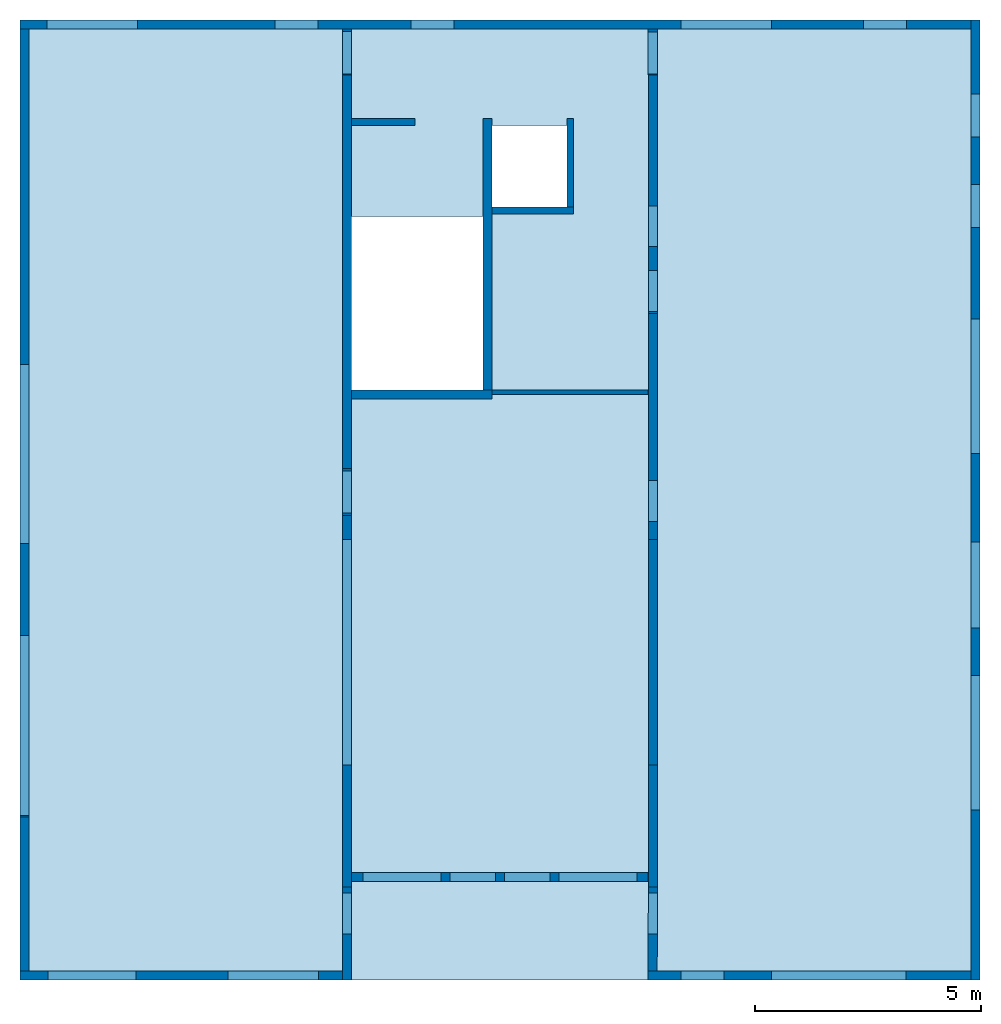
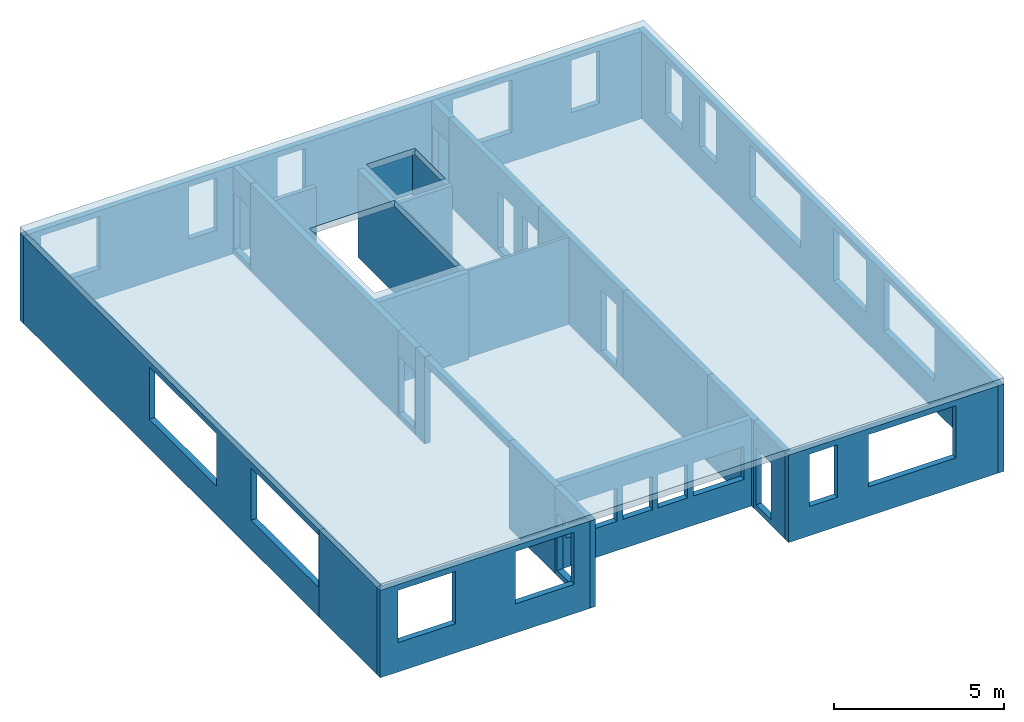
# One storey: 25 walls, 1 beam, 1 slab, 31 openings.
"""IFC2X3 building model written with IfcOpenShell, lengths in millimetres."""

from ifc_helpers import new_model, entity, si_unit, converted_unit, frame, frame_2d, origin, origin_with_axes, place, context, subcontext, project, spatial, polyline, rectangle, outline, extrude, material, layer, layer_set, layer_usage, element, save


model = new_model("IFC2X3")

# Units and contexts
model_context = context("Model", 3, precision=1e-05, world=origin())
body_context = subcontext(model_context, "Body", "Model", "MODEL_VIEW")
ifc_project = project(units=[si_unit("LENGTHUNIT", "METRE", prefix="MILLI"), converted_unit("PLANEANGLEUNIT", "DEGREE", entity("IfcPlaneAngleMeasure", 0.0174532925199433), si_unit("PLANEANGLEUNIT", "RADIAN"), dimensions=[0, 0, 0, 0, 0, 0, 0]), si_unit("AREAUNIT", "SQUARE_METRE"), si_unit("VOLUMEUNIT", "CUBIC_METRE")], contexts=[model_context])

# Building, storey
building_placement = place(None, origin())
building = spatial("IfcBuilding", under=ifc_project, at=building_placement, Name="Bâtiment", CompositionType="ELEMENT")
storey_placement = place(building_placement, frame((0.0, 0.0, 17930.0), z_axis=(0.0, 0.0, 1.0), x_axis=(1.0, 0.0, 0.0)))
storey = spatial("IfcBuildingStorey", under=building, at=storey_placement, Name="5. Etage supérieur", CompositionType="ELEMENT", Elevation=17930.0)

# Beam
ifc_material_1 = material(Name="<Unnamed Material>")
beam_placement = place(storey_placement, frame((5083.145608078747, -27162.93546621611, 2660.0), z_axis=(0.0, 0.0, 1.0), x_axis=(-0.0001049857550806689, 0.9999999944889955, 0.0)))
element("IfcBeam", 1, at=beam_placement, inside=storey, material=ifc_material_1, Name="<Unnamed Element>", context=body_context, shape_type="SweptSolid", body=[
    extrude(rectangle(XDim=270.0, YDim=200.0000000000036, at=frame_2d((135.0, -100.0000000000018), x_axis=(1.0, 0.0))), frame((0.0, 0.0, 0.0), z_axis=(1.0, 0.0, 0.0), x_axis=(0.0, 0.0, 1.0)), (0.0, 0.0, 1.0), 4978.489400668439),
])

# Slab, openings
ifc_material_2 = material(Name="<Unnamed Material>")
ifc_layer_1 = layer(ifc_material_2, 230.0)
ifc_layer_set_1 = layer_set([ifc_layer_1])
ifc_layer_usage_1 = layer_usage(ifc_layer_set_1, "AXIS3", "POSITIVE", 0.0)
slab_placement = place(storey_placement, frame((-2242.186712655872, -10713.57313399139, 2930.0), z_axis=(0.0, 0.0, 1.0), x_axis=(1.0, 0.0, 0.0)))
slab = element("IfcSlab", 2, at=slab_placement, inside=storey, material=ifc_layer_usage_1, Name="<Unnamed Element>", PredefinedType="FLOOR", context=body_context, shape_type="SweptSolid", body=[
    extrude(rectangle(XDim=21199.7794596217, YDim=21199.78053621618, at=frame_2d((10599.89026810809, -10599.88972981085), x_axis=(0.0, -0.9999999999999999))), origin_with_axes(), (0.0, 0.0, 1.0), 230.0),
])
opening_1_placement = place(slab_placement, frame((7324.37095526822, -4339.723391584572, 0.0), z_axis=(0.0, 0.0, 1.0), x_axis=(1.0, 0.0, 0.0)))
element("IfcOpeningElement", 3, at=opening_1_placement, cuts=slab, Name="Trémie dans dalle", ObjectType="Opening", context=body_context, shape_type="SweptSolid", body=[
    extrude(rectangle(XDim=3832.337630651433, YDim=2900.897842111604, at=frame_2d((1450.448921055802, -1916.168815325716), x_axis=(0.0, -1.0))), origin_with_axes(), (0.0, 0.0, 1.0), 230.0),
])
opening_2_placement = place(slab_placement, frame((10425.26879737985, -2328.570187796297, 0.0), z_axis=(0.0, 0.0, 1.0), x_axis=(1.0, 0.0, 0.0)))
element("IfcOpeningElement", 4, at=opening_2_placement, cuts=slab, Name="Trémie dans dalle", ObjectType="Opening", context=body_context, shape_type="SweptSolid", body=[
    extrude(rectangle(XDim=1801.910756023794, YDim=1649.183155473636, at=frame_2d((824.5915777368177, -900.9553780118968), x_axis=(0.0, -1.0))), origin_with_axes(), (0.0, 0.0, 1.0), 230.0),
])

# Walls
ifc_material_3 = material(Name="<Unnamed Material>")
ifc_layer_2 = layer(ifc_material_3, 200.0)
ifc_layer_set_2 = layer_set([ifc_layer_2])
ifc_layer_usage_2 = layer_usage(ifc_layer_set_2, "AXIS2", "POSITIVE", -100.0)
wall_1_placement = place(storey_placement, frame((4882.622938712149, -11933.31105644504, -200.0), z_axis=(0.0, 0.0, 1.0), x_axis=(8.375772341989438e-16, -1.0, 0.0)))
element("IfcWallStandardCase", 5, at=wall_1_placement, inside=storey, material=ifc_layer_usage_2, Name="<Unnamed Element>", context=body_context, shape_type="SweptSolid", body=[
    extrude(outline(polyline([(0.0, 0.0), (8686.909477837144, 0.0), (8686.909477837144, 200.0), (7152.32309978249, 200.0000000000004), (7152.32309978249, 199.5182401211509), (6952.32309978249, 199.5182401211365), (6952.32309978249, 200.0000000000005), (1.675154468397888e-13, 200.0), (0.0, 0.0)])), origin_with_axes(), (0.0, 0.0, 1.0), 3140.0),
])
ifc_material_4 = material(Name="<Unnamed Material>")
ifc_layer_3 = layer(ifc_material_4, 200.0)
ifc_layer_set_3 = layer_set([ifc_layer_3])
ifc_layer_usage_3 = layer_usage(ifc_layer_set_3, "AXIS2", "POSITIVE", -100.0)
wall_2_placement = place(storey_placement, frame((4882.622938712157, -21651.10432616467, -200.0), z_axis=(0.0, 0.0, 1.0), x_axis=(-1.909833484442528e-13, -1.0, 0.0)))
element("IfcWallStandardCase", 6, at=wall_2_placement, inside=storey, material=ifc_layer_usage_3, Name="<Unnamed Element>", context=body_context, shape_type="SweptSolid", body=[
    extrude(outline(polyline([(0.0, 0.0), (533.362763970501, 0.0), (533.3627639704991, 200.0), (-0.04673483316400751, 200.0), (0.04673480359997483, 2.184142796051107e-05), (0.0, 0.0)])), origin_with_axes(), (0.0, 0.0, 1.0), 3140.0),
])

# Wall, opening
ifc_material_5 = material(Name="<Unnamed Material>")
ifc_layer_4 = layer(ifc_material_5, 200.0000000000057)
ifc_layer_set_4 = layer_set([ifc_layer_4])
ifc_layer_usage_4 = layer_usage(ifc_layer_set_4, "AXIS2", "POSITIVE", -200.0)
wall_3_placement = place(storey_placement, frame((4882.141200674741, -20620.31400391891, -200.0), z_axis=(0.0, 0.0, 1.0), x_axis=(0.0004673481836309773, -0.9999998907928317, 0.0)))
wall_3 = element("IfcWallStandardCase", 7, at=wall_3_placement, inside=storey, material=ifc_layer_usage_4, Name="<Unnamed Element>", context=body_context, shape_type="SweptSolid", body=[
    extrude(rectangle(XDim=1030.837169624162, YDim=200.0000000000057, at=frame_2d((515.4185848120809, 100.0000000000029), x_axis=(1.0, 0.0))), origin_with_axes(), (0.0, 0.0, 1.0), 3140.0),
])
opening_3_placement = place(wall_3_placement, frame((50.06475455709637, 3.337087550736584e-13, 200.0), z_axis=(0.0, 1.0, 0.0), x_axis=(0.0, 0.0, 1.0)))
element("IfcOpeningElement", 8, at=opening_3_placement, cuts=wall_3, Name="Porte-fenêtre", ObjectType="Opening", context=body_context, shape_type="SweptSolid", body=[
    extrude(rectangle(XDim=2040.0, YDim=930.0, at=frame_2d((1020.0, 465.0), x_axis=(1.0, 0.0))), origin_with_axes(), (0.0, 0.0, 1.0), 200.0000000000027),
])

ifc_material_6 = material(Name="<Unnamed Material>")
ifc_layer_5 = layer(ifc_material_6, 200.0)
ifc_layer_set_5 = layer_set([ifc_layer_5])
ifc_layer_usage_5 = layer_usage(ifc_layer_set_5, "AXIS2", "POSITIVE", -200.0)
wall_4_placement = place(storey_placement, frame((5083.145609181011, -11933.31105644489, -200.0), z_axis=(0.0, 0.0, 1.0), x_axis=(4.992028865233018e-14, 1.0, 0.0)))
wall_4 = element("IfcWallStandardCase", 9, at=wall_4_placement, inside=storey, material=ifc_layer_usage_5, Name="<Unnamed Element>", context=body_context, shape_type="SweptSolid", body=[
    extrude(rectangle(XDim=1020.260592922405, YDim=200.0, at=frame_2d((510.1302964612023, 100.0), x_axis=(1.0, 0.0))), origin_with_axes(), (0.0, 0.0, 1.0), 3140.0),
])
opening_4_placement = place(wall_4_placement, frame((31.31246848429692, -2.526705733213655e-13, 200.0), z_axis=(0.0, 1.0, 0.0), x_axis=(0.0, 0.0, 1.0)))
element("IfcOpeningElement", 10, at=opening_4_placement, cuts=wall_4, Name="Porte-fenêtre", ObjectType="Opening", context=body_context, shape_type="SweptSolid", body=[
    extrude(rectangle(XDim=2040.0, YDim=930.0, at=frame_2d((1020.0, 465.0), x_axis=(1.0, 0.0))), origin_with_axes(), (0.0, 0.0, 1.0), 200.0),
])

# Walls
ifc_material_7 = material(Name="<Unnamed Material>")
ifc_layer_6 = layer(ifc_material_7, 200.0)
ifc_layer_set_6 = layer_set([ifc_layer_6])
ifc_layer_usage_6 = layer_usage(ifc_layer_set_6, "AXIS2", "POSITIVE", 0.0)
wall_5_placement = place(storey_placement, frame((8183.082084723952, -18885.63415622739, -200.0), z_axis=(0.0, 0.0, 1.0), x_axis=(4.855906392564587e-15, 1.0, 0.0)))
element("IfcWallStandardCase", 11, at=wall_5_placement, inside=storey, material=ifc_layer_usage_6, Name="<Unnamed Element>", context=body_context, shape_type="SweptSolid", body=[
    extrude(rectangle(XDim=5993.490834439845, YDim=200.0, at=frame_2d((2996.745417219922, 100.0), x_axis=(1.0, 0.0))), origin_with_axes(), (0.0, 0.0, 1.0), 3140.0),
])
ifc_material_8 = material(Name="<Unnamed Material>")
ifc_layer_7 = layer(ifc_material_8, 150.0)
ifc_layer_set_7 = layer_set([ifc_layer_7])
ifc_layer_usage_7 = layer_usage(ifc_layer_set_7, "AXIS2", "POSITIVE", 0.0)
wall_6_placement = place(storey_placement, frame((8183.082084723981, -14994.05407781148, -200.0), z_axis=(0.0, 0.0, 1.0), x_axis=(1.0, -3.033025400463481e-15, 0.0)))
element("IfcWallStandardCase", 12, at=wall_6_placement, inside=storey, material=ifc_layer_usage_7, Name="<Unnamed Element>", context=body_context, shape_type="SweptSolid", body=[
    extrude(rectangle(XDim=1799.183155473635, YDim=150.0, at=frame_2d((899.5915777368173, 75.0), x_axis=(1.0, 0.0))), origin_with_axes(), (0.0, 0.0, 1.0), 3140.0),
])
ifc_material_9 = material(Name="<Unnamed Material>")
ifc_layer_8 = layer(ifc_material_9, 150.0)
ifc_layer_set_8 = layer_set([ifc_layer_8])
ifc_layer_usage_8 = layer_usage(ifc_layer_set_8, "AXIS2", "POSITIVE", 0.0)
wall_7_placement = place(storey_placement, frame((9982.265240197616, -14844.05407781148, -200.0), z_axis=(0.0, 0.0, 1.0), x_axis=(7.455215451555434e-15, 1.0, 0.0)))
element("IfcWallStandardCase", 13, at=wall_7_placement, inside=storey, material=ifc_layer_usage_8, Name="<Unnamed Element>", context=body_context, shape_type="SweptSolid", body=[
    extrude(rectangle(XDim=1951.91075602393, YDim=150.0, at=frame_2d((975.955378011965, 75.0), x_axis=(1.0, 0.0))), origin_with_axes(), (0.0, 0.0, 1.0), 3140.0),
])
ifc_material_10 = material(Name="<Unnamed Material>")
ifc_layer_9 = layer(ifc_material_10, 200.0)
ifc_layer_set_9 = layer_set([ifc_layer_9])
ifc_layer_usage_9 = layer_usage(ifc_layer_set_9, "AXIS2", "POSITIVE", -100.0)
wall_8_placement = place(storey_placement, frame((-2042.186712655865, -31713.35259361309, -200.0), z_axis=(0.0, 0.0, 1.0), x_axis=(0.0, 1.0, 0.0)))
element("IfcWallStandardCase", 14, at=wall_8_placement, inside=storey, material=ifc_layer_usage_9, Name="<Unnamed Element>", context=body_context, shape_type="SweptSolid", body=[
    extrude(rectangle(XDim=3401.036787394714, YDim=200.0, at=frame_2d((1700.518393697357, 100.0), x_axis=(1.0, 0.0))), origin_with_axes(), (0.0, 0.0, 1.0), 3140.0),
])

# Wall, openings
ifc_material_11 = material(Name="<Unnamed Material>")
ifc_layer_10 = layer(ifc_material_11, 200.0)
ifc_layer_set_10 = layer_set([ifc_layer_10])
ifc_layer_usage_10 = layer_usage(ifc_layer_set_10, "AXIS2", "POSITIVE", -100.0)
wall_9_placement = place(storey_placement, frame((-2042.186712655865, -28312.31580621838, -200.0), z_axis=(0.0, 0.0, 1.0), x_axis=(-4.181887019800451e-16, 0.9999999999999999, 0.0)))
wall_9 = element("IfcWallStandardCase", 15, at=wall_9_placement, inside=storey, material=ifc_layer_usage_10, Name="<Unnamed Element>", context=body_context, shape_type="SweptSolid", body=[
    extrude(rectangle(XDim=17398.74267222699, YDim=200.0, at=frame_2d((8699.371336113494, 99.99999999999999), x_axis=(1.0, 0.0))), origin_with_axes(), (0.0, 0.0, 1.0), 3140.0),
])
opening_5_placement = place(wall_9_placement, frame((28.64891545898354, -1.302801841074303e-14, 1050.0), z_axis=(0.0, 1.0, 0.0), x_axis=(0.0, 0.0, 1.0)))
element("IfcOpeningElement", 16, at=opening_5_placement, cuts=wall_9, Name="Baie de fenêtre", ObjectType="Opening", context=body_context, shape_type="SweptSolid", body=[
    extrude(rectangle(XDim=1880.0, YDim=3980.0, at=frame_2d((940.0, 1990.0), x_axis=(1.0, 0.0))), origin_with_axes(), (0.0, 0.0, 1.0), 200.0),
])
opening_6_placement = place(wall_9_placement, frame((6038.648915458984, 8.919192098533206e-13, 1050.0), z_axis=(0.0, 1.0, 0.0), x_axis=(0.0, 0.0, 1.0)))
element("IfcOpeningElement", 17, at=opening_6_placement, cuts=wall_9, Name="Baie de fenêtre", ObjectType="Opening", context=body_context, shape_type="SweptSolid", body=[
    extrude(rectangle(XDim=1880.0, YDim=3950.0, at=frame_2d((940.0, 1975.0), x_axis=(1.0, 0.0))), origin_with_axes(), (0.0, 0.0, 1.0), 200.0),
])

ifc_material_12 = material(Name="<Unnamed Material>")
ifc_layer_11 = layer(ifc_material_12, 200.0)
ifc_layer_set_11 = layer_set([ifc_layer_11])
ifc_layer_usage_11 = layer_usage(ifc_layer_set_11, "AXIS2", "POSITIVE", -100.0)
wall_10_placement = place(storey_placement, frame((4882.1411788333, -31713.35259361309, -200.0), z_axis=(0.0, 0.0, 1.0), x_axis=(-1.0, 0.0, 0.0)))
wall_10 = element("IfcWallStandardCase", 18, at=wall_10_placement, inside=storey, material=ifc_layer_usage_11, Name="<Unnamed Element>", context=body_context, shape_type="SweptSolid", body=[
    extrude(rectangle(XDim=7124.327891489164, YDim=200.0, at=frame_2d((3562.163945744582, 100.0), x_axis=(1.0, 0.0))), origin_with_axes(), (0.0, 0.0, 1.0), 3140.0),
])
opening_7_placement = place(wall_10_placement, frame((4560.000000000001, 0.0, 1050.0), z_axis=(0.0, 1.0, 0.0), x_axis=(0.0, 0.0, 1.0)))
element("IfcOpeningElement", 19, at=opening_7_placement, cuts=wall_10, Name="Baie de fenêtre", ObjectType="Opening", context=body_context, shape_type="SweptSolid", body=[
    extrude(rectangle(XDim=1880.0, YDim=1950.0, at=frame_2d((940.0, 975.0), x_axis=(1.0, 0.0))), origin_with_axes(), (0.0, 0.0, 1.0), 200.0),
])
opening_8_placement = place(wall_10_placement, frame((530.0000000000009, 0.0, 1050.0), z_axis=(0.0, 1.0, 0.0), x_axis=(0.0, 0.0, 1.0)))
element("IfcOpeningElement", 20, at=opening_8_placement, cuts=wall_10, Name="Baie de fenêtre", ObjectType="Opening", context=body_context, shape_type="SweptSolid", body=[
    extrude(rectangle(XDim=1880.0, YDim=2000.0, at=frame_2d((940.0, 1000.0), x_axis=(1.0, 0.0))), origin_with_axes(), (0.0, 0.0, 1.0), 200.0),
])

# Wall, opening
ifc_material_13 = material(Name="<Unnamed Material>")
ifc_layer_12 = layer(ifc_material_13, 200.0)
ifc_layer_set_12 = layer_set([ifc_layer_12])
ifc_layer_usage_12 = layer_usage(ifc_layer_set_12, "AXIS2", "POSITIVE", -200.0)
wall_11_placement = place(storey_placement, frame((4882.141178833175, -29863.87900255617, -200.0), z_axis=(0.0, 0.0, 1.0), x_axis=(6.745302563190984e-14, -1.0, 0.0)))
wall_11 = element("IfcWallStandardCase", 21, at=wall_11_placement, inside=storey, material=ifc_layer_usage_12, Name="<Unnamed Element>", context=body_context, shape_type="SweptSolid", body=[
    extrude(rectangle(XDim=2049.473591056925, YDim=200.0, at=frame_2d((1024.736795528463, 100.0), x_axis=(1.0, 0.0))), origin_with_axes(), (0.0, 0.0, 1.0), 3140.0),
])
opening_9_placement = place(wall_11_placement, frame((128.6892510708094, 4.338248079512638e-13, 200.0), z_axis=(0.0, 1.0, 0.0), x_axis=(0.0, 0.0, 1.0)))
element("IfcOpeningElement", 22, at=opening_9_placement, cuts=wall_11, Name="Porte-fenêtre", ObjectType="Opening", context=body_context, shape_type="SweptSolid", body=[
    extrude(rectangle(XDim=2040.0, YDim=900.0, at=frame_2d((1020.0, 450.0), x_axis=(1.0, 0.0))), origin_with_axes(), (0.0, 0.0, 1.0), 200.0),
])

# Wall, openings
ifc_material_14 = material(Name="<Unnamed Material>")
ifc_layer_13 = layer(ifc_material_14, 200.0)
ifc_layer_set_13 = layer_set([ifc_layer_13])
ifc_layer_usage_13 = layer_usage(ifc_layer_set_13, "AXIS2", "POSITIVE", 0.0)
wall_12_placement = place(storey_placement, frame((5083.145609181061, -29743.20998737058, -200.0), z_axis=(0.0, 0.0, 1.0), x_axis=(1.0, 5.555817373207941e-16, 0.0)))
wall_12 = element("IfcWallStandardCase", 23, at=wall_12_placement, inside=storey, material=ifc_layer_usage_13, Name="<Unnamed Element>", context=body_context, shape_type="SweptSolid", body=[
    extrude(rectangle(XDim=6548.053261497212, YDim=200.0, at=frame_2d((3274.026630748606, 100.0), x_axis=(1.0, 0.0))), origin_with_axes(), (0.0, 0.0, 1.0), 3140.0),
])
opening_10_placement = place(wall_12_placement, frame((4573.26477193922, 3.637978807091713e-12, 1050.0), z_axis=(0.0, 1.0, 0.0), x_axis=(0.0, 0.0, 1.0)))
element("IfcOpeningElement", 24, at=opening_10_placement, cuts=wall_12, Name="Baie de fenêtre", ObjectType="Opening", context=body_context, shape_type="SweptSolid", body=[
    extrude(rectangle(XDim=1190.0, YDim=1725.0, at=frame_2d((595.0, 862.5), x_axis=(1.0, 0.0))), origin_with_axes(), (0.0, 0.0, 1.0), 200.0),
])
opening_11_placement = place(wall_12_placement, frame((3375.109717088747, 3.637978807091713e-12, 1050.0), z_axis=(0.0, 1.0, 0.0), x_axis=(0.0, 0.0, 1.0)))
element("IfcOpeningElement", 25, at=opening_11_placement, cuts=wall_12, Name="Baie de fenêtre", ObjectType="Opening", context=body_context, shape_type="SweptSolid", body=[
    extrude(rectangle(XDim=1190.0, YDim=1000.0, at=frame_2d((595.0, 500.0), x_axis=(1.0, 0.0))), origin_with_axes(), (0.0, 0.0, 1.0), 200.0),
])
opening_12_placement = place(wall_12_placement, frame((2174.93726818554, 0.0, 1050.0), z_axis=(0.0, 1.0, 0.0), x_axis=(0.0, 0.0, 1.0)))
element("IfcOpeningElement", 26, at=opening_12_placement, cuts=wall_12, Name="Baie de fenêtre", ObjectType="Opening", context=body_context, shape_type="SweptSolid", body=[
    extrude(rectangle(XDim=1190.0, YDim=1000.000000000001, at=frame_2d((595.0, 500.0000000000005), x_axis=(1.0, 0.0))), origin_with_axes(), (0.0, 0.0, 1.0), 200.0),
])
opening_13_placement = place(wall_12_placement, frame((248.8380329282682, 0.0, 1050.0), z_axis=(0.0, 1.0, 0.0), x_axis=(0.0, 0.0, 1.0)))
element("IfcOpeningElement", 27, at=opening_13_placement, cuts=wall_12, Name="Baie de fenêtre", ObjectType="Opening", context=body_context, shape_type="SweptSolid", body=[
    extrude(rectangle(XDim=1190.0, YDim=1725.0, at=frame_2d((595.0, 862.5), x_axis=(1.0, 0.0))), origin_with_axes(), (0.0, 0.0, 1.0), 200.0),
])

# Wall
ifc_material_15 = material(Name="<Unnamed Material>")
ifc_layer_14 = layer(ifc_material_15, 200.0)
ifc_layer_set_14 = layer_set([ifc_layer_14])
ifc_layer_usage_14 = layer_usage(ifc_layer_set_14, "AXIS2", "POSITIVE", 0.0)
wall_13_placement = place(storey_placement, frame((4883.145609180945, -27162.95646336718, -200.0), z_axis=(0.0, 0.0, 1.0), x_axis=(4.579593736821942e-14, -0.9999999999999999, 0.0)))
element("IfcWallStandardCase", 28, at=wall_13_placement, inside=storey, material=ifc_layer_usage_14, Name="<Unnamed Element>", context=body_context, shape_type="SweptSolid", body=[
    extrude(rectangle(XDim=2700.922539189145, YDim=200.0, at=frame_2d((1350.461269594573, 99.99999999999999), x_axis=(1.0, 0.0))), origin_with_axes(), (0.0, 0.0, 1.0), 3140.0),
])

# Wall, opening
ifc_material_16 = material(Name="<Unnamed Material>")
ifc_layer_15 = layer(ifc_material_16, 200.0000000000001)
ifc_layer_set_15 = layer_set([ifc_layer_15])
ifc_layer_usage_15 = layer_usage(ifc_layer_set_15, "AXIS2", "POSITIVE", -200.0)
wall_14_placement = place(storey_placement, frame((11632.25951429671, -29863.62150510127, -200.0), z_axis=(0.0, 0.0, 1.0), x_axis=(-0.001287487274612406, -0.9999991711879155, 0.0)))
wall_14 = element("IfcWallStandardCase", 29, at=wall_14_placement, inside=storey, material=ifc_layer_usage_15, Name="<Unnamed Element>", context=body_context, shape_type="SweptSolid", body=[
    extrude(outline(polyline([(0.0, 0.0), (1849.732621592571, 0.0), (1849.475123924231, 200.0000000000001), (-1.814937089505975e-12, 200.0000000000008), (0.0, 0.0)])), origin_with_axes(), (0.0, 0.0, 1.0), 3140.0),
])
opening_14_placement = place(wall_14_placement, frame((128.6901036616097, 5.17058618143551e-13, 200.0), z_axis=(0.0, 1.0, 0.0), x_axis=(0.0, 0.0, 1.0)))
element("IfcOpeningElement", 30, at=opening_14_placement, cuts=wall_14, Name="Porte-fenêtre", ObjectType="Opening", context=body_context, shape_type="SweptSolid", body=[
    extrude(rectangle(XDim=2040.0, YDim=900.0, at=frame_2d((1020.0, 450.0), x_axis=(1.0, 0.0))), origin_with_axes(), (0.0, 0.0, 1.0), 200.0000000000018),
])

# Wall, openings
ifc_material_17 = material(Name="<Unnamed Material>")
ifc_layer_16 = layer(ifc_material_17, 200.0)
ifc_layer_set_16 = layer_set([ifc_layer_16])
ifc_layer_usage_16 = layer_usage(ifc_layer_set_16, "AXIS2", "POSITIVE", -100.0)
wall_15_placement = place(storey_placement, frame((18757.59382356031, -31713.35259361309, -200.0), z_axis=(0.0, 0.0, 1.0), x_axis=(-0.9999999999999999, 0.0, 0.0)))
wall_15 = element("IfcWallStandardCase", 31, at=wall_15_placement, inside=storey, material=ifc_layer_usage_16, Name="<Unnamed Element>", context=body_context, shape_type="SweptSolid", body=[
    extrude(outline(polyline([(0.0, 0.0), (7127.715816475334, 0.0), (7127.973314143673, 200.0), (0.0, 200.0), (0.0, 0.0)])), origin_with_axes(), (0.0, 0.0, 1.0), 3140.0),
])
opening_15_placement = place(wall_15_placement, frame((5457.756787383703, 0.0, 1050.0), z_axis=(0.0, 1.0, 0.0), x_axis=(0.0, 0.0, 1.0)))
element("IfcOpeningElement", 32, at=opening_15_placement, cuts=wall_15, Name="Baie de fenêtre", ObjectType="Opening", context=body_context, shape_type="SweptSolid", body=[
    extrude(rectangle(XDim=1880.0, YDim=950.0, at=frame_2d((940.0, 475.0), x_axis=(1.0, 0.0))), origin_with_axes(), (0.0, 0.0, 1.0), 200.0),
])
opening_16_placement = place(wall_15_placement, frame((1432.756787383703, 0.0, 1050.0), z_axis=(0.0, 1.0, 0.0), x_axis=(0.0, 0.0, 1.0)))
element("IfcOpeningElement", 33, at=opening_16_placement, cuts=wall_15, Name="Baie de fenêtre", ObjectType="Opening", context=body_context, shape_type="SweptSolid", body=[
    extrude(rectangle(XDim=1880.0, YDim=2975.0, at=frame_2d((940.0, 1487.5), x_axis=(1.0, 0.0))), origin_with_axes(), (0.0, 0.0, 1.0), 200.0),
])

# Walls
ifc_material_18 = material(Name="<Unnamed Material>")
ifc_layer_17 = layer(ifc_material_18, 200.0)
ifc_layer_set_17 = layer_set([ifc_layer_17])
ifc_layer_usage_17 = layer_usage(ifc_layer_set_17, "AXIS2", "POSITIVE", 0.0)
wall_16_placement = place(storey_placement, frame((11832.2593485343, -29863.87900255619, -200.0), z_axis=(0.0, 0.0, 1.0), x_axis=(4.848981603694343e-14, 0.9999999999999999, 0.0)))
element("IfcWallStandardCase", 34, at=wall_16_placement, inside=storey, material=ifc_layer_usage_17, Name="<Unnamed Element>", context=body_context, shape_type="SweptSolid", body=[
    extrude(outline(polyline([(0.0, 0.0), (2700.922539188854, 2.584939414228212e-26), (2700.922539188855, 200.0), (0.1287487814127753, 200.0), (0.2574974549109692, 199.9998342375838), (0.0, 0.0)])), origin_with_axes(), (0.0, 0.0, 1.0), 3140.0),
])
ifc_material_19 = material(Name="<Unnamed Material>")
ifc_layer_18 = layer(ifc_material_19, 200.0000000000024)
ifc_layer_set_18 = layer_set([ifc_layer_18])
ifc_layer_usage_18 = layer_usage(ifc_layer_set_18, "AXIS2", "POSITIVE", -200.0)
wall_17_placement = place(storey_placement, frame((11632.78202010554, -22184.44609298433, -200.0), z_axis=(0.0, 0.0, 1.0), x_axis=(-0.0001049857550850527, -0.9999999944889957, 0.0)))
element("IfcWallStandardCase", 35, at=wall_17_placement, inside=storey, material=ifc_layer_usage_18, Name="<Unnamed Element>", context=body_context, shape_type="SweptSolid", body=[
    extrude(rectangle(XDim=4978.489400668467, YDim=200.0000000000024, at=frame_2d((2489.244700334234, 100.0000000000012), x_axis=(1.0, 0.0))), origin_with_axes(), (0.0, 0.0, 1.0), 3140.0),
])

# Wall, openings
ifc_material_20 = material(Name="<Unnamed Material>")
ifc_layer_19 = layer(ifc_material_20, 200.0)
ifc_layer_set_19 = layer_set([ifc_layer_19])
ifc_layer_usage_19 = layer_usage(ifc_layer_set_19, "AXIS2", "POSITIVE", -100.0)
wall_18_placement = place(storey_placement, frame((18757.59382356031, -10713.57313399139, -200.0), z_axis=(0.0, 0.0, 1.0), x_axis=(0.0, -1.0, 0.0)))
wall_18 = element("IfcWallStandardCase", 36, at=wall_18_placement, inside=storey, material=ifc_layer_usage_19, Name="<Unnamed Element>", context=body_context, shape_type="SweptSolid", body=[
    extrude(rectangle(XDim=21199.7794596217, YDim=200.0, at=frame_2d((10599.88972981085, 100.0), x_axis=(1.0, 0.0))), origin_with_axes(), (0.0, 0.0, 1.0), 3140.0),
])
opening_17_placement = place(wall_18_placement, frame((11524.48749585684, 0.0, 1050.0), z_axis=(0.0, 1.0, 0.0), x_axis=(0.0, 0.0, 1.0)))
element("IfcOpeningElement", 37, at=opening_17_placement, cuts=wall_18, Name="Baie de fenêtre", ObjectType="Opening", context=body_context, shape_type="SweptSolid", body=[
    extrude(rectangle(XDim=1880.0, YDim=950.0, at=frame_2d((940.0, 475.0), x_axis=(1.0, 0.0))), origin_with_axes(), (0.0, 0.0, 1.0), 200.0),
])
opening_18_placement = place(wall_18_placement, frame((1630.0, 0.0, 1050.0), z_axis=(0.0, 1.0, 0.0), x_axis=(0.0, 0.0, 1.0)))
element("IfcOpeningElement", 38, at=opening_18_placement, cuts=wall_18, Name="Baie de fenêtre", ObjectType="Opening", context=body_context, shape_type="SweptSolid", body=[
    extrude(rectangle(XDim=1880.0, YDim=950.0, at=frame_2d((940.0, 475.0), x_axis=(1.0, 0.0))), origin_with_axes(), (0.0, 0.0, 1.0), 200.0),
])
opening_19_placement = place(wall_18_placement, frame((3630.0, 0.0, 1050.0), z_axis=(0.0, 1.0, 0.0), x_axis=(0.0, 0.0, 1.0)))
element("IfcOpeningElement", 39, at=opening_19_placement, cuts=wall_18, Name="Baie de fenêtre", ObjectType="Opening", context=body_context, shape_type="SweptSolid", body=[
    extrude(rectangle(XDim=1880.0, YDim=950.0, at=frame_2d((940.0, 475.0), x_axis=(1.0, 0.0))), origin_with_axes(), (0.0, 0.0, 1.0), 200.0),
])
opening_20_placement = place(wall_18_placement, frame((6600.0, 0.0, 1050.0), z_axis=(0.0, 1.0, 0.0), x_axis=(0.0, 0.0, 1.0)))
element("IfcOpeningElement", 40, at=opening_20_placement, cuts=wall_18, Name="Baie de fenêtre", ObjectType="Opening", context=body_context, shape_type="SweptSolid", body=[
    extrude(rectangle(XDim=1880.0, YDim=2975.0, at=frame_2d((940.0, 1487.5), x_axis=(1.0, 0.0))), origin_with_axes(), (0.0, 0.0, 1.0), 200.0),
])
opening_21_placement = place(wall_18_placement, frame((12474.48749585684, 0.0, 1050.0), z_axis=(0.0, 1.0, 0.0), x_axis=(0.0, 0.0, 1.0)))
element("IfcOpeningElement", 41, at=opening_21_placement, cuts=wall_18, Name="Baie de fenêtre", ObjectType="Opening", context=body_context, shape_type="SweptSolid", body=[
    extrude(rectangle(XDim=1880.0, YDim=950.0, at=frame_2d((940.0, 475.0), x_axis=(1.0, 0.0))), origin_with_axes(), (0.0, 0.0, 1.0), 200.0),
])
opening_22_placement = place(wall_18_placement, frame((14474.48749585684, 0.0, 1050.0), z_axis=(0.0, 1.0, 0.0), x_axis=(0.0, 0.0, 1.0)))
element("IfcOpeningElement", 42, at=opening_22_placement, cuts=wall_18, Name="Baie de fenêtre", ObjectType="Opening", context=body_context, shape_type="SweptSolid", body=[
    extrude(rectangle(XDim=1880.0, YDim=2975.0, at=frame_2d((940.0, 1487.5), x_axis=(1.0, 0.0))), origin_with_axes(), (0.0, 0.0, 1.0), 200.0),
])

# Wall, opening
ifc_material_21 = material(Name="<Unnamed Material>")
ifc_layer_20 = layer(ifc_material_21, 200.0)
ifc_layer_set_20 = layer_set([ifc_layer_20])
ifc_layer_usage_20 = layer_usage(ifc_layer_set_20, "AXIS2", "POSITIVE", -100.0)
wall_19_placement = place(storey_placement, frame((11632.78201900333, -17195.40125277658, -200.0), z_axis=(0.0, 0.0, 1.0), x_axis=(1.458386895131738e-15, -1.0, 0.0)))
wall_19 = element("IfcWallStandardCase", 43, at=wall_19_placement, inside=storey, material=ifc_layer_usage_20, Name="<Unnamed Element>", context=body_context, shape_type="SweptSolid", body=[
    extrude(outline(polyline([(0.0, 0.0), (4989.044840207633, 0.0), (4989.065837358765, 200.0), (2.916773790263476e-13, 200.0), (0.0, 0.0)])), origin_with_axes(), (0.0, 0.0, 1.0), 3140.0),
])
opening_23_placement = place(wall_19_placement, frame((3689.065837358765, -1.253403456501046e-12, 200.0), z_axis=(0.0, 1.0, 0.0), x_axis=(0.0, 0.0, 1.0)))
element("IfcOpeningElement", 44, at=opening_23_placement, cuts=wall_19, Name="Porte-fenêtre", ObjectType="Opening", context=body_context, shape_type="SweptSolid", body=[
    extrude(rectangle(XDim=2200.0, YDim=900.0, at=frame_2d((1100.0, 450.0), x_axis=(1.0, 0.0))), origin_with_axes(), (0.0, 0.0, 1.0), 200.0),
])

# Wall, openings
ifc_material_22 = material(Name="<Unnamed Material>")
ifc_layer_21 = layer(ifc_material_22, 200.0)
ifc_layer_set_21 = layer_set([ifc_layer_21])
ifc_layer_usage_21 = layer_usage(ifc_layer_set_21, "AXIS2", "POSITIVE", -100.0)
wall_20_placement = place(storey_placement, frame((11832.78201900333, -17195.40125277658, -200.0), z_axis=(0.0, 0.0, 1.0), x_axis=(0.0, 1.0, 0.0)))
wall_20 = element("IfcWallStandardCase", 45, at=wall_20_placement, inside=storey, material=ifc_layer_usage_21, Name="<Unnamed Element>", context=body_context, shape_type="SweptSolid", body=[
    extrude(rectangle(XDim=5262.090196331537, YDim=200.0, at=frame_2d((2631.045098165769, 100.0), x_axis=(1.0, 0.0))), origin_with_axes(), (0.0, 0.0, 1.0), 3140.0),
])
opening_24_placement = place(wall_20_placement, frame((48.35450415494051, 0.0, 200.0), z_axis=(0.0, 1.0, 0.0), x_axis=(0.0, 0.0, 1.0)))
element("IfcOpeningElement", 46, at=opening_24_placement, cuts=wall_20, Name="Porte-fenêtre", ObjectType="Opening", context=body_context, shape_type="SweptSolid", body=[
    extrude(rectangle(XDim=2040.0, YDim=900.0, at=frame_2d((1020.0, 450.0), x_axis=(1.0, 0.0))), origin_with_axes(), (0.0, 0.0, 1.0), 200.0),
])
opening_25_placement = place(wall_20_placement, frame((1479.148905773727, 0.0, 200.0), z_axis=(0.0, 1.0, 0.0), x_axis=(0.0, 0.0, 1.0)))
element("IfcOpeningElement", 47, at=opening_25_placement, cuts=wall_20, Name="Porte-fenêtre", ObjectType="Opening", context=body_context, shape_type="SweptSolid", body=[
    extrude(rectangle(XDim=2040.0, YDim=900.0, at=frame_2d((1020.0, 450.0), x_axis=(1.0, 0.0))), origin_with_axes(), (0.0, 0.0, 1.0), 200.0),
])

# Wall, opening
ifc_material_23 = material(Name="<Unnamed Material>")
ifc_layer_22 = layer(ifc_material_23, 200.0)
ifc_layer_set_22 = layer_set([ifc_layer_22])
ifc_layer_usage_22 = layer_usage(ifc_layer_set_22, "AXIS2", "POSITIVE", -200.0)
wall_21_placement = place(storey_placement, frame((11831.19887067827, -11933.31105644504, -200.0), z_axis=(0.0, 0.0, 1.0), x_axis=(0.0, 1.0, 0.0)))
wall_21 = element("IfcWallStandardCase", 48, at=wall_21_placement, inside=storey, material=ifc_layer_usage_22, Name="<Unnamed Element>", context=body_context, shape_type="SweptSolid", body=[
    extrude(rectangle(XDim=1019.737922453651, YDim=200.0, at=frame_2d((509.8689612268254, 100.0), x_axis=(1.0, 0.0))), origin_with_axes(), (0.0, 0.0, 1.0), 3140.0),
])
opening_26_placement = place(wall_21_placement, frame((30.10082773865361, 0.0, 200.0), z_axis=(0.0, 1.0, 0.0), x_axis=(0.0, 0.0, 1.0)))
element("IfcOpeningElement", 49, at=opening_26_placement, cuts=wall_21, Name="Porte-fenêtre", ObjectType="Opening", context=body_context, shape_type="SweptSolid", body=[
    extrude(rectangle(XDim=2040.0, YDim=930.0, at=frame_2d((1020.0, 465.0), x_axis=(1.0, 0.0))), origin_with_axes(), (0.0, 0.0, 1.0), 200.0),
])

# Wall
ifc_material_24 = material(Name="<Unnamed Material>")
ifc_layer_23 = layer(ifc_material_24, 200.0)
ifc_layer_set_23 = layer_set([ifc_layer_23])
ifc_layer_usage_23 = layer_usage(ifc_layer_set_23, "AXIS2", "POSITIVE", 0.0)
wall_22_placement = place(storey_placement, frame((5082.141178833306, -19085.63415622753, -200.0), z_axis=(0.0, 0.0, 1.0), x_axis=(1.0, 4.810060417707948e-14, 0.0)))
element("IfcWallStandardCase", 50, at=wall_22_placement, inside=storey, material=ifc_layer_usage_23, Name="<Unnamed Element>", context=body_context, shape_type="SweptSolid", body=[
    extrude(rectangle(XDim=3100.940905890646, YDim=200.0, at=frame_2d((1550.470452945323, 100.0), x_axis=(1.0, 0.0))), origin_with_axes(), (0.0, 0.0, 1.0), 3140.0),
])

# Wall, openings
ifc_material_25 = material(Name="<Unnamed Material>")
ifc_layer_24 = layer(ifc_material_25, 200.0)
ifc_layer_set_24 = layer_set([ifc_layer_24])
ifc_layer_usage_24 = layer_usage(ifc_layer_set_24, "AXIS2", "POSITIVE", -100.0)
wall_23_placement = place(storey_placement, frame((-2242.186712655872, -10913.57313399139, -200.0), z_axis=(0.0, 0.0, 1.0), x_axis=(1.0, 1.732388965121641e-16, 0.0)))
wall_23 = element("IfcWallStandardCase", 51, at=wall_23_placement, inside=storey, material=ifc_layer_usage_24, Name="<Unnamed Element>", context=body_context, shape_type="SweptSolid", body=[
    extrude(outline(polyline([(7325.332321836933, 5.499569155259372e-13), (20999.78053621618, 0.0), (20999.78053621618, 200.0), (3.464777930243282e-14, 200.0), (0.0, 0.0), (7125.332321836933, 5.846046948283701e-13), (7125.332321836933, 0.5226704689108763), (7325.332321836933, 0.5226704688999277), (7325.332321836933, 5.499569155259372e-13)])), origin_with_axes(), (0.0, 0.0, 1.0), 3140.0),
])
opening_27_placement = place(wall_23_placement, frame((18630.21634026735, 3.637978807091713e-12, 1050.0), z_axis=(0.0, 1.0, 0.0), x_axis=(0.0, 0.0, 1.0)))
element("IfcOpeningElement", 52, at=opening_27_placement, cuts=wall_23, Name="Baie de fenêtre", ObjectType="Opening", context=body_context, shape_type="SweptSolid", body=[
    extrude(rectangle(XDim=1880.0, YDim=950.0, at=frame_2d((940.0, 475.0), x_axis=(1.0, 0.0))), origin_with_axes(), (0.0, 0.0, 1.0), 200.0),
])
opening_28_placement = place(wall_23_placement, frame((14600.21634026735, 3.637978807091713e-12, 1050.0), z_axis=(0.0, 1.0, 0.0), x_axis=(0.0, 0.0, 1.0)))
element("IfcOpeningElement", 53, at=opening_28_placement, cuts=wall_23, Name="Baie de fenêtre", ObjectType="Opening", context=body_context, shape_type="SweptSolid", body=[
    extrude(rectangle(XDim=1880.0, YDim=2000.0, at=frame_2d((940.0, 1000.0), x_axis=(1.0, 0.0))), origin_with_axes(), (0.0, 0.0, 1.0), 200.0),
])
opening_29_placement = place(wall_23_placement, frame((8630.27108989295, 1.818989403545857e-12, 1050.0), z_axis=(0.0, 1.0, 0.0), x_axis=(0.0, 0.0, 1.0)))
element("IfcOpeningElement", 54, at=opening_29_placement, cuts=wall_23, Name="Baie de fenêtre", ObjectType="Opening", context=body_context, shape_type="SweptSolid", body=[
    extrude(rectangle(XDim=1880.0, YDim=950.0, at=frame_2d((940.0, 475.0), x_axis=(1.0, 0.0))), origin_with_axes(), (0.0, 0.0, 1.0), 200.0),
])
opening_30_placement = place(wall_23_placement, frame((5630.271089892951, 1.818989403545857e-12, 1050.0), z_axis=(0.0, 1.0, 0.0), x_axis=(0.0, 0.0, 1.0)))
element("IfcOpeningElement", 55, at=opening_30_placement, cuts=wall_23, Name="Baie de fenêtre", ObjectType="Opening", context=body_context, shape_type="SweptSolid", body=[
    extrude(rectangle(XDim=1880.0, YDim=950.0, at=frame_2d((940.0, 475.0), x_axis=(1.0, 0.0))), origin_with_axes(), (0.0, 0.0, 1.0), 199.9999999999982),
])
opening_31_placement = place(wall_23_placement, frame((600.0, 0.0, 1050.0), z_axis=(0.0, 1.0, 0.0), x_axis=(0.0, 0.0, 1.0)))
element("IfcOpeningElement", 56, at=opening_31_placement, cuts=wall_23, Name="Baie de fenêtre", ObjectType="Opening", context=body_context, shape_type="SweptSolid", body=[
    extrude(rectangle(XDim=1880.0, YDim=2000.0, at=frame_2d((940.0, 1000.0), x_axis=(1.0, 0.0))), origin_with_axes(), (0.0, 0.0, 1.0), 200.0),
])

# Walls
ifc_material_26 = material(Name="<Unnamed Material>")
ifc_layer_25 = layer(ifc_material_26, 101.0)
ifc_layer_set_25 = layer_set([ifc_layer_25])
ifc_layer_usage_25 = layer_usage(ifc_layer_set_25, "AXIS2", "POSITIVE", -101.0)
wall_24_placement = place(storey_placement, frame((11631.19887067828, -18885.15682669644, -200.0), z_axis=(0.0, 0.0, 1.0), x_axis=(-1.0, 4.220250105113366e-14, 0.0)))
element("IfcWallStandardCase", 57, at=wall_24_placement, inside=storey, material=ifc_layer_usage_25, Name="<Unnamed Element>", context=body_context, shape_type="SweptSolid", body=[
    extrude(rectangle(XDim=3448.116785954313, YDim=101.0, at=frame_2d((1724.058392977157, 50.5), x_axis=(1.0, 0.0))), origin_with_axes(), (0.0, 0.0, 1.0), 3140.0),
])
ifc_material_27 = material(Name="<Unnamed Material>")
ifc_layer_26 = layer(ifc_material_27, 150.0)
ifc_layer_set_26 = layer_set([ifc_layer_26])
ifc_layer_usage_26 = layer_usage(ifc_layer_set_26, "AXIS2", "POSITIVE", -150.0)
wall_25_placement = place(storey_placement, frame((5082.622938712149, -13042.14332178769, -200.0), z_axis=(0.0, 0.0, 1.0), x_axis=(1.0, 0.0, 0.0)))
element("IfcWallStandardCase", 58, at=wall_25_placement, inside=storey, material=ifc_layer_usage_26, Name="<Unnamed Element>", context=body_context, shape_type="SweptSolid", body=[
    extrude(rectangle(XDim=1398.645348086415, YDim=150.0, at=frame_2d((699.3226740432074, 75.0), x_axis=(1.0, 0.0))), origin_with_axes(), (0.0, 0.0, 1.0), 3140.0),
])

save(model, "model.ifc")
